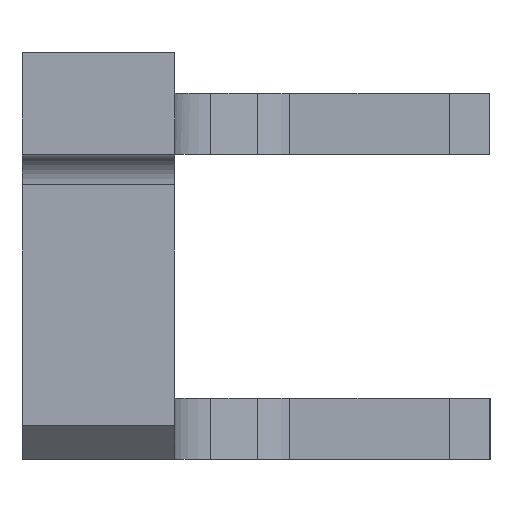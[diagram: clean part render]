
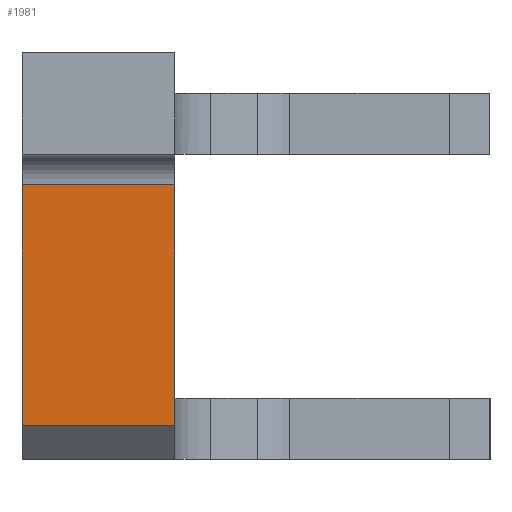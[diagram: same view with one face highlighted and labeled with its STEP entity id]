
A CAD part, left-side view. The second image highlights one B-rep face of the part: STEP entity #1981.
In plain terms, the highlighted free-form (B-spline) face has degree [1, 1] with [2, 2] control points.
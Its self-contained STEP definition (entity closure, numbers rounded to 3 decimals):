
#854=CARTESIAN_POINT('',(-80.112,28.039,-73.337));
#855=VERTEX_POINT('',#854);
#944=CARTESIAN_POINT('',(-80.112,28.039,-26.));
#945=VERTEX_POINT('',#944);
#953=CARTESIAN_POINT('',(-80.112,28.039,-73.337));
#954=DIRECTION('',(0.0,0.0,1.0));
#955=VECTOR('',#954,47.337);
#956=LINE('',#953,#955);
#957=EDGE_CURVE('',#855,#945,#956,.T.);
#1691=CARTESIAN_POINT('',(-80.112,58.039,-73.337));
#1692=VERTEX_POINT('',#1691);
#1699=CARTESIAN_POINT('',(-80.112,58.039,-26.));
#1700=VERTEX_POINT('',#1699);
#1701=CARTESIAN_POINT('',(-80.112,58.039,-26.));
#1702=DIRECTION('',(0.0,0.0,-1.0));
#1703=VECTOR('',#1702,47.337);
#1704=LINE('',#1701,#1703);
#1705=EDGE_CURVE('',#1700,#1692,#1704,.T.);
#1954=CARTESIAN_POINT('',(-80.112,58.039,-73.337));
#1955=DIRECTION('',(0.0,-1.0,0.0));
#1956=VECTOR('',#1955,30.0);
#1957=LINE('',#1954,#1956);
#1958=EDGE_CURVE('',#1692,#855,#1957,.T.);
#1965=CARTESIAN_POINT('',(-80.112,58.039,-73.337));
#1966=CARTESIAN_POINT('',(-80.112,58.039,-26.));
#1967=CARTESIAN_POINT('',(-80.112,28.039,-73.337));
#1968=CARTESIAN_POINT('',(-80.112,28.039,-26.));
#1969=B_SPLINE_SURFACE_WITH_KNOTS('',1,1,((#1965,#1967),(#1966,#1968)),.UNSPECIFIED.,.F.,.F.,.U.,(2,2),(2,2),(0.0,47.337),(0.0,30.),.UNSPECIFIED.);
#1970=ORIENTED_EDGE('',*,*,#957,.T.);
#1971=CARTESIAN_POINT('',(-80.112,58.039,-26.));
#1972=DIRECTION('',(0.0,-1.0,0.0));
#1973=VECTOR('',#1972,30.0);
#1974=LINE('',#1971,#1973);
#1975=EDGE_CURVE('',#1700,#945,#1974,.T.);
#1976=ORIENTED_EDGE('',*,*,#1975,.F.);
#1977=ORIENTED_EDGE('',*,*,#1705,.T.);
#1978=ORIENTED_EDGE('',*,*,#1958,.T.);
#1979=EDGE_LOOP('',(#1970,#1976,#1977,#1978));
#1980=FACE_OUTER_BOUND('',#1979,.T.);
#1981=ADVANCED_FACE('',(#1980),#1969,.F.);
